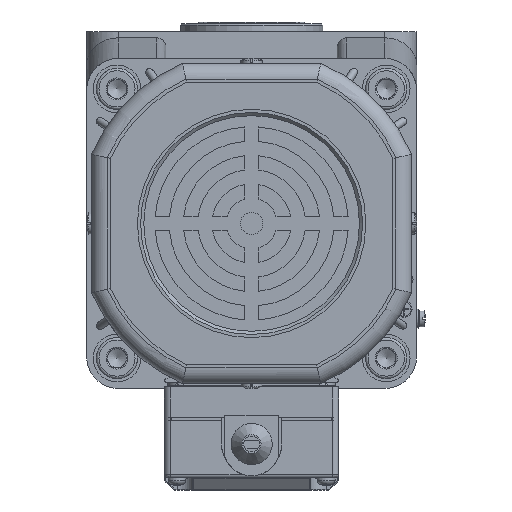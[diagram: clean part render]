
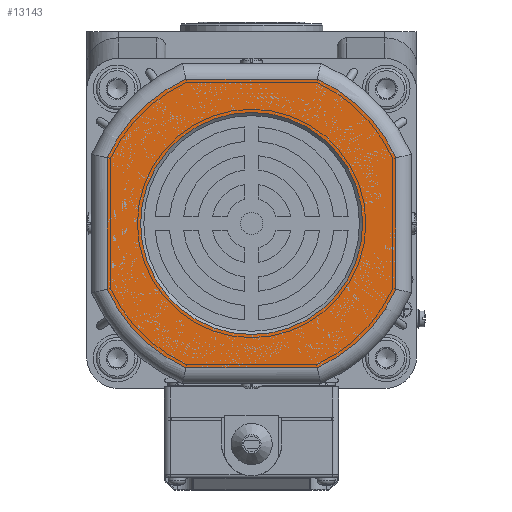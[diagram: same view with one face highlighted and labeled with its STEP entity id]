
A CAD part, left-side view. The second image highlights one B-rep face of the part: STEP entity #13143.
In plain terms, the highlighted planar face has unit normal (-1, 0, 0).
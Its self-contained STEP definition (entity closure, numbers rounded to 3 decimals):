
#3632=PLANE('',#45049);
#7936=LINE('',#73552,#10555);
#7940=LINE('',#73590,#10559);
#7943=LINE('',#73624,#10562);
#7944=LINE('',#73641,#10563);
#10555=VECTOR('',#55376,1.);
#10559=VECTOR('',#55392,1.);
#10562=VECTOR('',#55403,1.);
#10563=VECTOR('',#55410,1.);
#13143=ADVANCED_FACE('',(#14387,#14388),#3632,.F.);
#14387=FACE_BOUND('',#17213,.T.);
#14388=FACE_BOUND('',#17214,.T.);
#17213=EDGE_LOOP('',(#28156,#28157,#28158,#28159,#28160,#28161,#28162,#28163));
#17214=EDGE_LOOP('',(#28164));
#28156=ORIENTED_EDGE('',*,*,#38092,.T.);
#28157=ORIENTED_EDGE('',*,*,#38073,.T.);
#28158=ORIENTED_EDGE('',*,*,#38078,.T.);
#28159=ORIENTED_EDGE('',*,*,#38082,.T.);
#28160=ORIENTED_EDGE('',*,*,#38086,.T.);
#28161=ORIENTED_EDGE('',*,*,#38090,.T.);
#28162=ORIENTED_EDGE('',*,*,#38095,.T.);
#28163=ORIENTED_EDGE('',*,*,#38096,.T.);
#28164=ORIENTED_EDGE('',*,*,#38264,.T.);
#32486=VERTEX_POINT('',#73519);
#32487=VERTEX_POINT('',#73521);
#32489=VERTEX_POINT('',#73551);
#32491=VERTEX_POINT('',#73570);
#32493=VERTEX_POINT('',#73589);
#32495=VERTEX_POINT('',#73608);
#32496=VERTEX_POINT('',#73623);
#32497=VERTEX_POINT('',#73640);
#32617=VERTEX_POINT('',#74099);
#38073=EDGE_CURVE('',#32487,#32486,#40787,.T.);
#38078=EDGE_CURVE('',#32486,#32489,#7936,.T.);
#38082=EDGE_CURVE('',#32489,#32491,#40789,.T.);
#38086=EDGE_CURVE('',#32491,#32493,#7940,.T.);
#38090=EDGE_CURVE('',#32493,#32495,#40791,.T.);
#38092=EDGE_CURVE('',#32496,#32487,#7943,.T.);
#38095=EDGE_CURVE('',#32495,#32497,#7944,.T.);
#38096=EDGE_CURVE('',#32497,#32496,#40793,.T.);
#38264=EDGE_CURVE('',#32617,#32617,#40861,.T.);
#40787=CIRCLE('',#44876,50.);
#40789=CIRCLE('',#44882,50.);
#40791=CIRCLE('',#44888,50.);
#40793=CIRCLE('',#44894,50.);
#40861=CIRCLE('',#45034,35.);
#44876=AXIS2_PLACEMENT_3D('',#73520,#55367,#55368);
#44882=AXIS2_PLACEMENT_3D('',#73571,#55383,#55384);
#44888=AXIS2_PLACEMENT_3D('',#73609,#55399,#55400);
#44894=AXIS2_PLACEMENT_3D('',#73643,#55413,#55414);
#45034=AXIS2_PLACEMENT_3D('',#74098,#55789,#55790);
#45049=AXIS2_PLACEMENT_3D('',#74114,#55819,#55820);
#55367=DIRECTION('',(-1.,0.,0.));
#55368=DIRECTION('',(0.,0.,1.));
#55376=DIRECTION('',(0.,0.,1.));
#55383=DIRECTION('',(-1.,0.,0.));
#55384=DIRECTION('',(0.,0.,1.));
#55392=DIRECTION('',(0.,1.,0.));
#55399=DIRECTION('',(-1.,0.,0.));
#55400=DIRECTION('',(0.,0.,1.));
#55403=DIRECTION('',(0.,-1.,0.));
#55410=DIRECTION('',(0.,0.,-1.));
#55413=DIRECTION('',(-1.,0.,0.));
#55414=DIRECTION('',(0.,0.,1.));
#55789=DIRECTION('',(1.,0.,0.));
#55790=DIRECTION('',(0.,-1.,0.));
#55819=DIRECTION('',(1.,0.,0.));
#55820=DIRECTION('',(0.,0.,1.));
#73519=CARTESIAN_POINT('',(-269.8,-166.171,-79.221));
#73520=CARTESIAN_POINT('',(-269.8,-120.671,-58.491));
#73521=CARTESIAN_POINT('',(-269.8,-141.402,-103.991));
#73551=CARTESIAN_POINT('',(-269.8,-166.171,-37.76));
#73552=CARTESIAN_POINT('',(-269.8,-166.171,-36.702));
#73570=CARTESIAN_POINT('',(-269.8,-141.402,-12.991));
#73571=CARTESIAN_POINT('',(-269.8,-120.671,-58.491));
#73589=CARTESIAN_POINT('',(-269.8,-99.941,-12.991));
#73590=CARTESIAN_POINT('',(-269.8,-98.882,-12.991));
#73608=CARTESIAN_POINT('',(-269.8,-75.171,-37.76));
#73609=CARTESIAN_POINT('',(-269.8,-120.671,-58.491));
#73623=CARTESIAN_POINT('',(-269.8,-99.941,-103.991));
#73624=CARTESIAN_POINT('',(-269.8,-142.46,-103.991));
#73640=CARTESIAN_POINT('',(-269.8,-75.171,-79.221));
#73641=CARTESIAN_POINT('',(-269.8,-75.171,-80.28));
#73643=CARTESIAN_POINT('',(-269.8,-120.671,-58.491));
#74098=CARTESIAN_POINT('',(-269.8,-120.671,-58.491));
#74099=CARTESIAN_POINT('',(-269.8,-155.671,-58.491));
#74114=CARTESIAN_POINT('',(-269.8,-120.671,-58.491));
